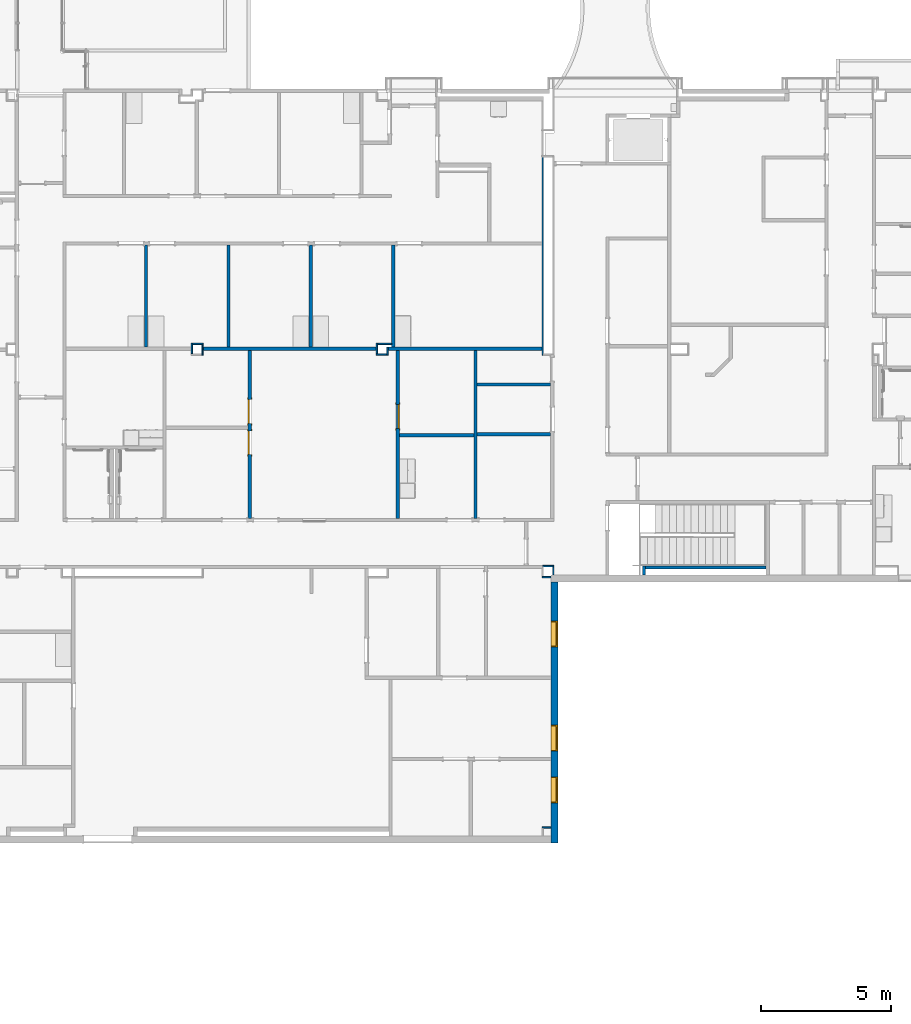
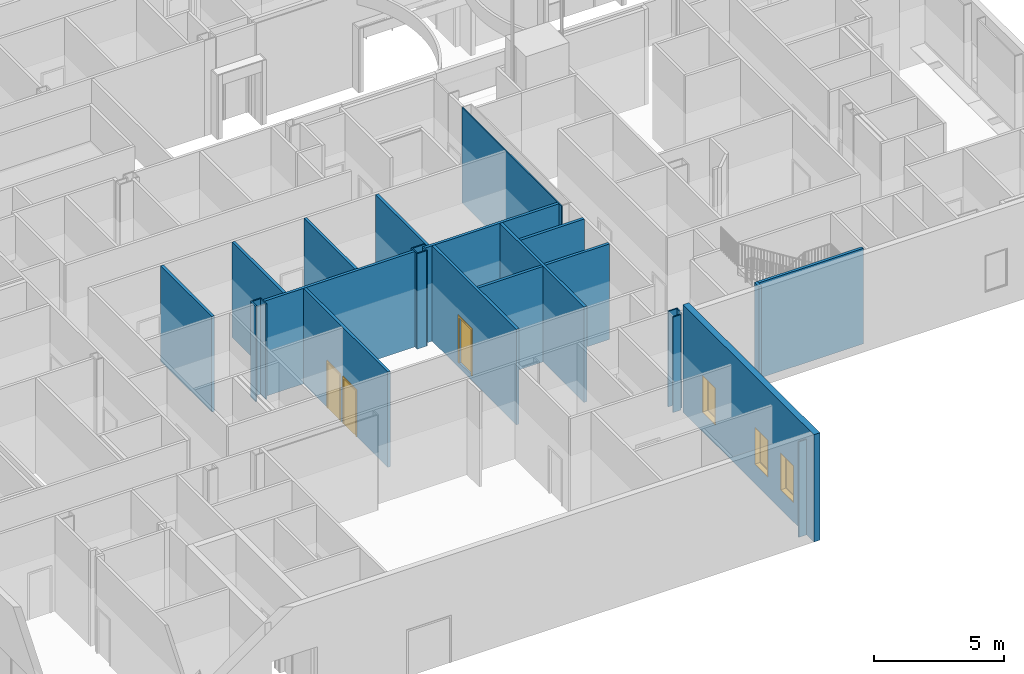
# One storey, part 22 of 82: 27 walls, 3 doors, 3 windows, 6 openings.
"""IFC2X3 building model written with IfcOpenShell, lengths in metres."""

from ifc_helpers import new_model, entity, si_unit, converted_unit, frame, frame_2d, origin, origin_2d_with_axis, place, context, project, spatial, polyline, rectangle, outline, extrude, source, transform, mapped, material, layer, layer_set, layer_usage, type_object, type_shapes, element, fill, save


model = new_model("IFC2X3")

# Units and contexts
model_context = context("Model", 3, precision=1e-09, world=origin())
plan_context = context("Plan", 3, precision=1e-09, world=origin())
ifc_project = project(units=[si_unit("LENGTHUNIT", "METRE"), si_unit("AREAUNIT", "SQUARE_METRE"), si_unit("VOLUMEUNIT", "CUBIC_METRE"), converted_unit("PLANEANGLEUNIT", "DEGREE", entity("IfcRatioMeasure", 0.01745329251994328), si_unit("PLANEANGLEUNIT", "RADIAN"), dimensions=[0, 0, 0, 0, 0, 0, 0]), si_unit("TIMEUNIT", "SECOND")], contexts=[model_context, plan_context])

# Site, building, storey
site_placement = place(None, origin())
site = spatial("IfcSite", under=ifc_project, at=site_placement, Name="Default", CompositionType="ELEMENT")
building_placement = place(site_placement, origin())
building = spatial("IfcBuilding", under=site, at=building_placement, CompositionType="ELEMENT")
storey_placement = place(building_placement, origin())
storey = spatial("IfcBuildingStorey", under=building, at=storey_placement, Name="First Floor", CompositionType="ELEMENT", Elevation=-3.531500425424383e-13)

# Wall, openings, windows
ifc_material_1 = material(Name="Insulation - Insulated Panel")
ifc_layer_1 = layer(ifc_material_1, 0.042)
ifc_material_2 = material(Name="Metal - Firring")
ifc_layer_2 = layer(ifc_material_2, 0.038)
ifc_material_3 = material(Name="Wood - Sheathing - plywood")
ifc_layer_3 = layer(ifc_material_3, 0.019)
ifc_material_4 = material(Name="Metal - Stud Layer")
ifc_layer_4 = layer(ifc_material_4, 0.152)
ifc_material_5 = material(Name="Plasterboard")
ifc_layer_5 = layer(ifc_material_5, 0.016)
ifc_layer_set_1 = layer_set([ifc_layer_1, ifc_layer_2, ifc_layer_3, ifc_layer_4, ifc_layer_5], Name="Basic Wall:Exterior - Insul Panel on Mtl. Stud")
ifc_layer_usage_1 = layer_usage(ifc_layer_set_1, "AXIS2", "NEGATIVE", 0.1335)
wall_1_placement = place(storey_placement, frame((-19.81350000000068, 9.659999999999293, 0.0), z_axis=(0.0, 0.0, 1.0), x_axis=(0.0, -1.0, 0.0)))
wall_1 = element("IfcWallStandardCase", 1, at=wall_1_placement, inside=storey, material=ifc_layer_usage_1, Name="Basic Wall:Exterior - Insul Panel on Mtl. Stud", ObjectType="Basic Wall:Exterior - Insul Panel on Mtl. Stud", context=model_context, shape_type="SweptSolid", body=[
    extrude(rectangle(XDim=10.04000000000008, YDim=0.2669999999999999, at=frame_2d((5.02000000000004, 0.0), x_axis=(-1.0, 0.0))), origin(), (0.0, 0.0, 1.0), 5.02700000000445),
])
opening_1_placement = place(wall_1_placement, frame((5.516000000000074, -0.1335000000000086, 0.9049999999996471)))
opening_1 = element("IfcOpeningElement", 2, at=opening_1_placement, cuts=wall_1, Name="M_Fixed:1735 x 1000mm:1735 x 1000mm:1", ObjectType="Opening", context=model_context, shape_type="SweptSolid", body=[
    extrude(rectangle(XDim=1.734999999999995, YDim=0.9999999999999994, at=frame_2d((0.8674999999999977, 0.5000000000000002), x_axis=(1.0, 0.0))), frame((0.0, 0.0, 0.0), z_axis=(0.0, 1.0, 0.0), x_axis=(0.0, 0.0, 1.0)), (0.0, 0.0, 1.0), 0.267),
])
opening_2_placement = place(wall_1_placement, frame((1.506000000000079, -0.1335000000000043, 0.9049999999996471)))
opening_2 = element("IfcOpeningElement", 3, at=opening_2_placement, cuts=wall_1, Name="M_Fixed:1735 x 1000mm:1735 x 1000mm:1", ObjectType="Opening", context=model_context, shape_type="SweptSolid", body=[
    extrude(rectangle(XDim=1.734999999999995, YDim=0.9999999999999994, at=frame_2d((0.8674999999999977, 0.5000000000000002), x_axis=(1.0, 0.0))), frame((0.0, 0.0, 0.0), z_axis=(0.0, 1.0, 0.0), x_axis=(0.0, 0.0, 1.0)), (0.0, 0.0, 1.0), 0.267),
])
opening_3_placement = place(wall_1_placement, frame((7.500000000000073, -0.133500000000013, 0.9049999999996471)))
opening_3 = element("IfcOpeningElement", 4, at=opening_3_placement, cuts=wall_1, Name="M_Fixed:1735 x 1000mm:1735 x 1000mm:1", ObjectType="Opening", context=model_context, shape_type="SweptSolid", body=[
    extrude(rectangle(XDim=1.734999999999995, YDim=0.9999999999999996, at=frame_2d((0.8674999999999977, 0.4999999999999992), x_axis=(1.0, 0.0))), frame((0.0, 0.0, 0.0), z_axis=(0.0, 1.0, 0.0), x_axis=(0.0, 0.0, 1.0)), (0.0, 0.0, 1.0), 0.267),
])
window_style = type_object("IfcWindowStyle", Name="1735 x 1000mm", ConstructionType="NOTDEFINED", OperationType="NOTDEFINED", ParameterTakesPrecedence=False, Sizeable=False)
shared_shape_1 = source(origin(), model_context, "Body", "SweptSolid", [
    extrude(rectangle(XDim=0.012, YDim=0.873999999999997, at=origin_2d_with_axis()), frame((0.5000000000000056, 0.2259999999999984, 0.06299999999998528), z_axis=(0.0, 0.0, 1.0), x_axis=(0.0, -1.0, 0.0)), (0.0, 0.0, 1.0), 1.609000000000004),
    extrude(outline(polyline([(-0.4809999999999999, -0.8485000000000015), (0.4809999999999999, -0.8485000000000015), (0.4809999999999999, 0.8485000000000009), (-0.4809999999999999, 0.8485000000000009), (-0.4809999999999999, -0.8485000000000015)]), holes=[polyline([(-0.4369999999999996, -0.8045000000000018), (-0.4369999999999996, 0.8045000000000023), (0.4369999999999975, 0.8045000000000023), (0.4369999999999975, -0.8045000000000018), (-0.4369999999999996, -0.8045000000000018)])]), frame((0.5000000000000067, 0.203999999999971, 0.8674999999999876), z_axis=(0.0, 1.0, 0.0), x_axis=(1.0, 0.0, 0.0)), (0.0, 0.0, 1.0), 0.04400000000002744),
    extrude(outline(polyline([(-0.4999999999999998, -0.8674999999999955), (0.4999999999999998, -0.8674999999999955), (0.4999999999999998, 0.8674999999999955), (-0.4999999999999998, 0.8674999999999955), (-0.4999999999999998, -0.8674999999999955)]), holes=[polyline([(-0.4810000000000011, -0.8484999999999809), (-0.4810000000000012, 0.8485000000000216), (0.4809999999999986, 0.8485000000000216), (0.4809999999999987, -0.8484999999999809), (-0.4810000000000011, -0.8484999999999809)])]), frame((0.500000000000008, 0.203999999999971, 0.8675000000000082), z_axis=(0.0, 1.0, 0.0), x_axis=(1.0, 0.0, 0.0)), (0.0, 0.0, 1.0), 0.06300000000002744),
    extrude(outline(polyline([(-0.5000000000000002, -0.867499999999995), (0.5000000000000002, -0.867499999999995), (0.5000000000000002, 0.867499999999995), (-0.5000000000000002, 0.867499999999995), (-0.5000000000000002, -0.867499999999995)]), holes=[polyline([(-0.4679999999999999, -0.8354999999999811), (-0.4679999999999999, 0.8355000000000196), (0.4680000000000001, 0.8355000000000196), (0.4680000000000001, -0.8354999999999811), (-0.4679999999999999, -0.8354999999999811)])]), frame((0.5000000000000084, 0.0, 0.8675000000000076), z_axis=(0.0, 1.0, 0.0), x_axis=(1.0, 0.0, 0.0)), (0.0, 0.0, 1.0), 0.2039999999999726),
])
type_shapes(window_style, [shared_shape_1])
window_1_placement = place(opening_2_placement, origin())
window_1 = element("IfcWindow", 5, at=window_1_placement, inside=storey, type_object=window_style, Name="M_Fixed:1735 x 1000mm:1735 x 1000mm", ObjectType="1735 x 1000mm", OverallHeight=1.734999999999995, OverallWidth=1.0, context=model_context, shape_type="MappedRepresentation", body=[
    mapped(shared_shape_1, transform((0.0, 0.0, 0.0), scale=1.0)),
])
fill(opening_2, window_1)
window_2_placement = place(opening_3_placement, origin())
window_2 = element("IfcWindow", 6, at=window_2_placement, inside=storey, type_object=window_style, Name="M_Fixed:1735 x 1000mm:1735 x 1000mm", ObjectType="1735 x 1000mm", OverallHeight=1.734999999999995, OverallWidth=0.9999999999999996, context=model_context, shape_type="MappedRepresentation", body=[
    mapped(shared_shape_1, transform((0.0, 0.0, 0.0), scale=1.0)),
])
fill(opening_3, window_2)
window_3_placement = place(opening_1_placement, origin())
window_3 = element("IfcWindow", 7, at=window_3_placement, inside=storey, type_object=window_style, Name="M_Fixed:1735 x 1000mm:1735 x 1000mm", ObjectType="1735 x 1000mm", OverallHeight=1.734999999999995, OverallWidth=0.9999999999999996, context=model_context, shape_type="MappedRepresentation", body=[
    mapped(shared_shape_1, transform((0.0, 0.0, 0.0), scale=1.0)),
])
fill(opening_1, window_3)

# Walls
ifc_layer_6 = layer(ifc_material_5, 0.016)
ifc_layer_7 = layer(ifc_material_4, 0.092)
ifc_layer_8 = layer(ifc_material_5, 0.016)
ifc_layer_set_2 = layer_set([ifc_layer_6, ifc_layer_7, ifc_layer_8], Name="Basic Wall:Interior - Partition (92mm Stud)")
ifc_layer_usage_2 = layer_usage(ifc_layer_set_2, "AXIS2", "NEGATIVE", 0.062)
wall_2_placement = place(storey_placement, frame((-26.67000000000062, 18.62199999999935, 0.0), z_axis=(0.0, 0.0, 1.0), x_axis=(-1.0, 0.0, 0.0)))
element("IfcWallStandardCase", 8, at=wall_2_placement, inside=storey, material=ifc_layer_usage_2, Name="Basic Wall:Interior - Partition (92mm Stud)", ObjectType="Basic Wall:Interior - Partition (92mm Stud)", context=model_context, shape_type="SweptSolid", body=[
    extrude(rectangle(XDim=6.650000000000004, YDim=0.1240000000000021, at=frame_2d((3.325000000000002, 0.0), x_axis=(-1.0, 0.0))), origin(), (0.0, 0.0, 1.0), 4.468000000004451),
])
wall_3_placement = place(storey_placement, frame((-22.84800000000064, 12.10399999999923, 0.0), z_axis=(0.0, 0.0, 1.0), x_axis=(0.0, 1.0, 0.0)))
element("IfcWallStandardCase", 9, at=wall_3_placement, inside=storey, material=ifc_layer_usage_2, Name="Basic Wall:Interior - Partition (92mm Stud)", ObjectType="Basic Wall:Interior - Partition (92mm Stud)", context=model_context, shape_type="SweptSolid", body=[
    extrude(rectangle(XDim=6.456000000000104, YDim=0.1239999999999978, at=frame_2d((3.228000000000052, 0.0), x_axis=(-1.0, 0.0))), origin(), (0.0, 0.0, 1.0), 4.46800000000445),
])
wall_4_placement = place(storey_placement, frame((-20.29000000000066, 18.62199999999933, 0.0), z_axis=(0.0, 0.0, 1.0), x_axis=(-1.0, 0.0, 0.0)))
element("IfcWallStandardCase", 10, at=wall_4_placement, inside=storey, material=ifc_layer_usage_2, Name="Basic Wall:Interior - Partition (92mm Stud)", ObjectType="Basic Wall:Interior - Partition (92mm Stud)", context=model_context, shape_type="SweptSolid", body=[
    extrude(rectangle(XDim=5.919999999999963, YDim=0.1240000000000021, at=frame_2d((2.959999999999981, 0.0), x_axis=(-1.0, 0.0))), origin(), (0.0, 0.0, 1.0), 4.468000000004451),
])

# Wall, openings, doors
wall_5_placement = place(storey_placement, frame((-31.53200000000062, 18.55999999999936, 0.0), z_axis=(0.0, 0.0, 1.0), x_axis=(0.0, -1.0, 0.0)))
wall_5 = element("IfcWallStandardCase", 11, at=wall_5_placement, inside=storey, material=ifc_layer_usage_2, Name="Basic Wall:Interior - Partition (92mm Stud)", ObjectType="Basic Wall:Interior - Partition (92mm Stud)", context=model_context, shape_type="SweptSolid", body=[
    extrude(rectangle(XDim=6.456000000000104, YDim=0.1239999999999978, at=frame_2d((3.228000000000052, 0.0), x_axis=(-1.0, 0.0))), origin(), (0.0, 0.0, 1.0), 4.46800000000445),
])
opening_4_placement = place(wall_5_placement, frame((4.009000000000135, 0.06199999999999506, 0.0)))
opening_4 = element("IfcOpeningElement", 12, at=opening_4_placement, cuts=wall_5, Name="M_Single-Flush:0915 x 2134mm:0915 x 2134mm:1", ObjectType="Opening", context=model_context, shape_type="SweptSolid", body=[
    extrude(rectangle(XDim=0.9149999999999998, YDim=2.134, at=frame_2d((1.067, 0.4575), x_axis=(0.0, 1.0))), frame((0.0, 0.0, 0.0), z_axis=(0.0, -1.0, 0.0), x_axis=(0.0, 0.0, 1.0)), (0.0, 0.0, 1.0), 0.124),
])
opening_5_placement = place(wall_5_placement, frame((2.81000000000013, 0.06199999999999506, 0.0)))
opening_5 = element("IfcOpeningElement", 13, at=opening_5_placement, cuts=wall_5, Name="M_Single-Flush:0915 x 2134mm:0915 x 2134mm:1", ObjectType="Opening", context=model_context, shape_type="SweptSolid", body=[
    extrude(rectangle(XDim=0.9149999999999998, YDim=2.134, at=frame_2d((1.067, 0.4574999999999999), x_axis=(0.0, -1.0))), frame((0.0, 0.0, 0.0), z_axis=(0.0, -1.0, 0.0), x_axis=(0.0, 0.0, 1.0)), (0.0, 0.0, 1.0), 0.124),
])
door_style_1 = type_object("IfcDoorStyle", Name="0915 x 2134mm", ConstructionType="NOTDEFINED", OperationType="SINGLE_SWING_RIGHT", ParameterTakesPrecedence=False, Sizeable=False)
shared_shape_2 = source(origin(), model_context, "Body", "SweptSolid", [
    extrude(outline(polyline([(-0.5335, -1.123999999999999), (0.5334999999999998, -1.123999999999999), (0.5334999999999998, 1.086), (0.4574999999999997, 1.086), (0.4574999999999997, -1.048000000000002), (-0.4574999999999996, -1.048000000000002), (-0.4574999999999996, 1.086), (-0.5335, 1.086), (-0.5335, -1.123999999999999)])), frame((0.4575000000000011, 0.1239999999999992, 1.086), z_axis=(0.0, 1.0, 0.0), x_axis=(1.0, 0.0, 0.0)), (0.0, 0.0, 1.0), 0.02499999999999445),
    extrude(outline(polyline([(-1.123999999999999, -0.5334999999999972), (1.085999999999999, -0.5334999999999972), (1.085999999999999, -0.4575000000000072), (-1.048, -0.4575000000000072), (-1.048, 0.4575000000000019), (1.085999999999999, 0.4575000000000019), (1.085999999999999, 0.5335000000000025), (-1.123999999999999, 0.5335000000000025), (-1.123999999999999, -0.5334999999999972)])), frame((0.4575000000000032, -0.02500000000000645, 1.085999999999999), z_axis=(0.0, 1.0, 0.0), x_axis=(0.0, 0.0, -1.0)), (0.0, 0.0, 1.0), 0.02500000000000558),
    extrude(rectangle(XDim=0.051, YDim=0.9149999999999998, at=origin_2d_with_axis()), frame((0.4575000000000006, 0.09849999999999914, 0.0), z_axis=(0.0, 0.0, 1.0), x_axis=(0.0, 1.0, 0.0)), (0.0, 0.0, 1.0), 2.133999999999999),
])
type_shapes(door_style_1, [shared_shape_2])
door_1_placement = place(opening_4_placement, frame((0.0, 0.0, 0.0), z_axis=(0.0, 0.0, 1.0), x_axis=(-1.0, 0.0, 0.0)))
door_1 = element("IfcDoor", 14, at=door_1_placement, inside=storey, type_object=door_style_1, Name="M_Single-Flush:0915 x 2134mm:0915 x 2134mm", ObjectType="0915 x 2134mm", OverallHeight=2.134, OverallWidth=0.9149999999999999, context=model_context, shape_type="MappedRepresentation", body=[
    mapped(shared_shape_2, transform((0.0, 0.0, 0.0), scale=1.0)),
])
fill(opening_4, door_1)
door_style_2 = type_object("IfcDoorStyle", Name="0915 x 2134mm", ConstructionType="NOTDEFINED", OperationType="SINGLE_SWING_LEFT", ParameterTakesPrecedence=False, Sizeable=False)
shared_shape_3 = source(origin(), model_context, "Body", "SweptSolid", [
    extrude(outline(polyline([(-0.5335, -1.123999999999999), (0.5334999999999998, -1.123999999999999), (0.5334999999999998, 1.086), (0.4574999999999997, 1.086), (0.4574999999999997, -1.048000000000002), (-0.4574999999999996, -1.048000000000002), (-0.4574999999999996, 1.086), (-0.5335, 1.086), (-0.5335, -1.123999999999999)])), frame((0.4575000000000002, 0.1489999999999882, 1.086), z_axis=(0.0, -1.0, 0.0), x_axis=(-1.0, 0.0, 0.0)), (0.0, 0.0, 1.0), 0.02499999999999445),
    extrude(outline(polyline([(-1.123999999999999, -0.5334999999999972), (1.085999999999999, -0.5334999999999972), (1.085999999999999, -0.4575000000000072), (-1.048, -0.4575000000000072), (-1.048, 0.4575000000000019), (1.085999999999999, 0.4575000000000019), (1.085999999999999, 0.5335000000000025), (-1.123999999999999, 0.5335000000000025), (-1.123999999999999, -0.5334999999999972)])), frame((0.4574999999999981, 0.0, 1.085999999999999), z_axis=(0.0, -1.0, 0.0), x_axis=(0.0, 0.0, -1.0)), (0.0, 0.0, 1.0), 0.02500000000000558),
    extrude(rectangle(XDim=0.9149999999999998, YDim=0.051, at=origin_2d_with_axis()), frame((0.4575000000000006, 0.09849999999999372, 0.0)), (0.0, 0.0, 1.0), 2.133999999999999),
])
type_shapes(door_style_2, [shared_shape_3])
door_2_placement = place(opening_5_placement, frame((0.0, 0.0, 0.0), z_axis=(0.0, 0.0, 1.0), x_axis=(-1.0, 0.0, 0.0)))
door_2 = element("IfcDoor", 15, at=door_2_placement, inside=storey, type_object=door_style_2, Name="M_Single-Flush:0915 x 2134mm:0915 x 2134mm", ObjectType="0915 x 2134mm", OverallHeight=2.134, OverallWidth=0.9149999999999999, context=model_context, shape_type="MappedRepresentation", body=[
    mapped(shared_shape_3, transform((0.0, 0.0, 0.0), scale=1.0)),
])
fill(opening_5, door_2)

# Wall
ifc_layer_9 = layer(ifc_material_4, 0.038)
ifc_layer_10 = layer(ifc_material_5, 0.016)
ifc_layer_set_3 = layer_set([ifc_layer_9, ifc_layer_10], Name="Basic Wall:Interior - Furring (38 mm Stud)")
ifc_layer_usage_3 = layer_usage(ifc_layer_set_3, "AXIS2", "POSITIVE", -0.027)
wall_6_placement = place(storey_placement, frame((-19.85700000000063, 10.2329999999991, 0.0), z_axis=(0.0, 0.0, 1.0), x_axis=(0.0, -1.0, 0.0)))
element("IfcWallStandardCase", 16, at=wall_6_placement, inside=storey, material=ifc_layer_usage_3, Name="Basic Wall:Interior - Furring (38 mm Stud)", ObjectType="Basic Wall:Interior - Furring (38 mm Stud)", context=model_context, shape_type="SweptSolid", body=[
    extrude(rectangle(XDim=0.3059999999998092, YDim=0.05399999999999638, at=frame_2d((0.1529999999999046, 0.0), x_axis=(-1.0, 0.0))), origin(), (0.0, 0.0, 1.0), 4.46800000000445),
])

# Wall, opening, door
wall_7_placement = place(storey_placement, frame((-25.83800000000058, 12.10399999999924, 0.0), z_axis=(0.0, 0.0, 1.0), x_axis=(0.0, 1.0, 0.0)))
wall_7 = element("IfcWallStandardCase", 17, at=wall_7_placement, inside=storey, material=ifc_layer_usage_2, Name="Basic Wall:Interior - Partition (92mm Stud)", ObjectType="Basic Wall:Interior - Partition (92mm Stud)", context=model_context, shape_type="SweptSolid", body=[
    extrude(rectangle(XDim=6.456000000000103, YDim=0.1239999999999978, at=frame_2d((3.228000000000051, 0.0), x_axis=(-1.0, 0.0))), origin(), (0.0, 0.0, 1.0), 4.468000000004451),
])
opening_6_placement = place(wall_7_placement, frame((4.371000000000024, 0.06199999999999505, 0.2499999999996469)))
opening_6 = element("IfcOpeningElement", 18, at=opening_6_placement, cuts=wall_7, Name="M_Single-Flush:0915 x 2134mm Rated:0915 x 2134mm Rated:1", ObjectType="Opening", context=model_context, shape_type="SweptSolid", body=[
    extrude(rectangle(XDim=0.9149999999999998, YDim=2.134, at=frame_2d((1.067, 0.4575), x_axis=(0.0, 1.0))), frame((0.0, 0.0, 0.0), z_axis=(0.0, -1.0, 0.0), x_axis=(0.0, 0.0, 1.0)), (0.0, 0.0, 1.0), 0.124),
])
door_style_3 = type_object("IfcDoorStyle", Name="0915 x 2134mm Rated", ConstructionType="NOTDEFINED", OperationType="SINGLE_SWING_RIGHT", ParameterTakesPrecedence=False, Sizeable=False)
shared_shape_4 = source(origin(), model_context, "Body", "SweptSolid", [
    extrude(outline(polyline([(-0.5335, -1.123999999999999), (0.5334999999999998, -1.123999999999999), (0.5334999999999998, 1.086), (0.4574999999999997, 1.086), (0.4574999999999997, -1.048000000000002), (-0.4574999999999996, -1.048000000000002), (-0.4574999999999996, 1.086), (-0.5335, 1.086), (-0.5335, -1.123999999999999)])), frame((0.4575000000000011, 0.1240000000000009, 1.086), z_axis=(0.0, 1.0, 0.0), x_axis=(1.0, 0.0, 0.0)), (0.0, 0.0, 1.0), 0.02499999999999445),
    extrude(outline(polyline([(-1.123999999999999, -0.5334999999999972), (1.085999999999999, -0.5334999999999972), (1.085999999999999, -0.4575000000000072), (-1.048, -0.4575000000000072), (-1.048, 0.4575000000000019), (1.085999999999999, 0.4575000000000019), (1.085999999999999, 0.5335000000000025), (-1.123999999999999, 0.5335000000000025), (-1.123999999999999, -0.5334999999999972)])), frame((0.4575000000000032, -0.02500000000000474, 1.085999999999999), z_axis=(0.0, 1.0, 0.0), x_axis=(0.0, 0.0, -1.0)), (0.0, 0.0, 1.0), 0.02500000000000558),
    extrude(rectangle(XDim=0.051, YDim=0.9149999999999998, at=origin_2d_with_axis()), frame((0.4575000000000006, 0.09850000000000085, 0.0), z_axis=(0.0, 0.0, 1.0), x_axis=(0.0, 1.0, 0.0)), (0.0, 0.0, 1.0), 2.133999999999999),
])
type_shapes(door_style_3, [shared_shape_4])
door_3_placement = place(opening_6_placement, frame((0.0, 0.0, 0.0), z_axis=(0.0, 0.0, 1.0), x_axis=(-1.0, 0.0, 0.0)))
door_3 = element("IfcDoor", 19, at=door_3_placement, inside=storey, type_object=door_style_3, Name="M_Single-Flush:0915 x 2134mm Rated:0915 x 2134mm Rated", ObjectType="0915 x 2134mm Rated", OverallHeight=2.134, OverallWidth=0.9149999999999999, context=model_context, shape_type="MappedRepresentation", body=[
    mapped(shared_shape_4, transform((0.0, 0.0, 0.0), scale=1.0)),
])
fill(opening_6, door_3)

# Walls
wall_8_placement = place(storey_placement, frame((-20.26300000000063, 10.2599999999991, 0.0)))
element("IfcWallStandardCase", 20, at=wall_8_placement, inside=storey, material=ifc_layer_usage_3, Name="Basic Wall:Interior - Furring (38 mm Stud)", ObjectType="Basic Wall:Interior - Furring (38 mm Stud)", context=model_context, shape_type="SweptSolid", body=[
    extrude(rectangle(XDim=0.4330000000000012, YDim=0.05400000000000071, at=frame_2d((0.2165000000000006, 0.0), x_axis=(-1.0, 0.0))), origin(), (0.0, 0.0, 1.0), 4.468000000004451),
])
wall_9_placement = place(storey_placement, frame((-19.94700000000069, 9.836999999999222, 0.0), z_axis=(0.0, 0.0, 1.0), x_axis=(-1.0, 0.0, 0.0)))
element("IfcWallStandardCase", 21, at=wall_9_placement, inside=storey, material=ifc_layer_usage_3, Name="Basic Wall:Interior - Furring (38 mm Stud)", ObjectType="Basic Wall:Interior - Furring (38 mm Stud)", context=model_context, shape_type="SweptSolid", body=[
    extrude(rectangle(XDim=0.342999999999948, YDim=0.05400000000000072, at=frame_2d((0.171499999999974, 0.0), x_axis=(-1.0, 0.0))), origin(), (0.0, 0.0, 1.0), 4.46800000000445),
])
ifc_layer_usage_4 = layer_usage(ifc_layer_set_3, "AXIS2", "NEGATIVE", 0.027)
wall_10_placement = place(storey_placement, frame((-20.26300000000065, 25.99199999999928, 0.0), z_axis=(0.0, 0.0, 1.0), x_axis=(0.0, -1.0, 0.0)))
element("IfcWallStandardCase", 22, at=wall_10_placement, inside=storey, material=ifc_layer_usage_4, Name="Basic Wall:Interior - Furring (38 mm Stud)", ObjectType="Basic Wall:Interior - Furring (38 mm Stud)", context=model_context, shape_type="SweptSolid", body=[
    extrude(rectangle(XDim=7.611999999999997, YDim=0.05399999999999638, at=frame_2d((3.805999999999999, 0.0), x_axis=(-1.0, 0.0))), origin(), (0.0, 0.0, 1.0), 4.46800000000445),
])
wall_11_placement = place(storey_placement, frame((-26.01200000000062, 22.60599999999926, 0.0), z_axis=(0.0, 0.0, 1.0), x_axis=(0.0, -1.0, 0.0)))
element("IfcWallStandardCase", 23, at=wall_11_placement, inside=storey, material=ifc_layer_usage_2, Name="Basic Wall:Interior - Partition (92mm Stud)", ObjectType="Basic Wall:Interior - Partition (92mm Stud)", context=model_context, shape_type="SweptSolid", body=[
    extrude(rectangle(XDim=3.921999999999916, YDim=0.1239999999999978, at=frame_2d((1.960999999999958, 0.0), x_axis=(-1.0, 0.0))), origin(), (0.0, 0.0, 1.0), 4.46800000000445),
])
wall_12_placement = place(storey_placement, frame((-33.34700000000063, 18.78599999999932, 0.0), z_axis=(0.0, 0.0, 1.0), x_axis=(0.0, -1.0, 0.0)))
element("IfcWallStandardCase", 24, at=wall_12_placement, inside=storey, material=ifc_layer_usage_3, Name="Basic Wall:Interior - Furring (38 mm Stud)", ObjectType="Basic Wall:Interior - Furring (38 mm Stud)", context=model_context, shape_type="SweptSolid", body=[
    extrude(rectangle(XDim=0.4059999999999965, YDim=0.05399999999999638, at=frame_2d((0.2029999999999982, 0.0), x_axis=(-1.0, 0.0))), origin(), (0.0, 0.0, 1.0), 4.46800000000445),
])
wall_13_placement = place(storey_placement, frame((-26.64300000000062, 18.43399999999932, 0.0), z_axis=(0.0, 0.0, 1.0), x_axis=(0.0, 1.0, 0.0)))
element("IfcWallStandardCase", 25, at=wall_13_placement, inside=storey, material=ifc_layer_usage_3, Name="Basic Wall:Interior - Furring (38 mm Stud)", ObjectType="Basic Wall:Interior - Furring (38 mm Stud)", context=model_context, shape_type="SweptSolid", body=[
    extrude(rectangle(XDim=0.4059999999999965, YDim=0.05399999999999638, at=frame_2d((0.2029999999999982, 0.0), x_axis=(-1.0, 0.0))), origin(), (0.0, 0.0, 1.0), 4.468000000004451),
])
wall_14_placement = place(storey_placement, frame((-33.75300000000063, 18.43399999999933, 0.0), z_axis=(0.0, 0.0, 1.0), x_axis=(0.0, 1.0, 0.0)))
element("IfcWallStandardCase", 26, at=wall_14_placement, inside=storey, material=ifc_layer_usage_3, Name="Basic Wall:Interior - Furring (38 mm Stud)", ObjectType="Basic Wall:Interior - Furring (38 mm Stud)", context=model_context, shape_type="SweptSolid", body=[
    extrude(rectangle(XDim=0.4059999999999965, YDim=0.05399999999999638, at=frame_2d((0.2029999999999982, 0.0), x_axis=(-1.0, 0.0))), origin(), (0.0, 0.0, 1.0), 4.46800000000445),
])
wall_15_placement = place(storey_placement, frame((-26.61600000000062, 18.81299999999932, 0.0)))
element("IfcWallStandardCase", 27, at=wall_15_placement, inside=storey, material=ifc_layer_usage_3, Name="Basic Wall:Interior - Furring (38 mm Stud)", ObjectType="Basic Wall:Interior - Furring (38 mm Stud)", context=model_context, shape_type="SweptSolid", body=[
    extrude(rectangle(XDim=0.5419999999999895, YDim=0.05400000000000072, at=frame_2d((0.2709999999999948, 0.0), x_axis=(-1.0, 0.0))), origin(), (0.0, 0.0, 1.0), 4.46800000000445),
])
wall_16_placement = place(storey_placement, frame((-29.18200000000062, 22.60599999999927, 0.0), z_axis=(0.0, 0.0, 1.0), x_axis=(0.0, -1.0, 0.0)))
element("IfcWallStandardCase", 28, at=wall_16_placement, inside=storey, material=ifc_layer_usage_2, Name="Basic Wall:Interior - Partition (92mm Stud)", ObjectType="Basic Wall:Interior - Partition (92mm Stud)", context=model_context, shape_type="SweptSolid", body=[
    extrude(rectangle(XDim=3.921999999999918, YDim=0.1239999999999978, at=frame_2d((1.960999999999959, 0.0), x_axis=(-1.0, 0.0))), origin(), (0.0, 0.0, 1.0), 4.46800000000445),
])
wall_17_placement = place(storey_placement, frame((-35.52200000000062, 22.60599999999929, 0.0), z_axis=(0.0, 0.0, 1.0), x_axis=(0.0, -1.0, 0.0)))
element("IfcWallStandardCase", 29, at=wall_17_placement, inside=storey, material=ifc_layer_usage_2, Name="Basic Wall:Interior - Partition (92mm Stud)", ObjectType="Basic Wall:Interior - Partition (92mm Stud)", context=model_context, shape_type="SweptSolid", body=[
    extrude(rectangle(XDim=3.921999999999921, YDim=0.1239999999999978, at=frame_2d((1.96099999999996, 0.0), x_axis=(-1.0, 0.0))), origin(), (0.0, 0.0, 1.0), 4.46800000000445),
])
wall_18_placement = place(storey_placement, frame((-19.95400000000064, 15.33199999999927, 0.0), z_axis=(0.0, 0.0, 1.0), x_axis=(-1.0, 0.0, 0.0)))
element("IfcWallStandardCase", 30, at=wall_18_placement, inside=storey, material=ifc_layer_usage_2, Name="Basic Wall:Interior - Partition (92mm Stud)", ObjectType="Basic Wall:Interior - Partition (92mm Stud)", context=model_context, shape_type="SweptSolid", body=[
    extrude(rectangle(XDim=2.831999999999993, YDim=0.1240000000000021, at=frame_2d((1.415999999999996, 0.0), x_axis=(-1.0, 0.0))), origin(), (0.0, 0.0, 1.0), 4.46800000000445),
])
wall_19_placement = place(storey_placement, frame((-32.35200000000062, 22.60599999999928, 0.0), z_axis=(0.0, 0.0, 1.0), x_axis=(0.0, -1.0, 0.0)))
element("IfcWallStandardCase", 31, at=wall_19_placement, inside=storey, material=ifc_layer_usage_2, Name="Basic Wall:Interior - Partition (92mm Stud)", ObjectType="Basic Wall:Interior - Partition (92mm Stud)", context=model_context, shape_type="SweptSolid", body=[
    extrude(rectangle(XDim=3.921999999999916, YDim=0.1239999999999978, at=frame_2d((1.960999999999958, 0.0), x_axis=(-1.0, 0.0))), origin(), (0.0, 0.0, 1.0), 4.46800000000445),
])
wall_20_placement = place(storey_placement, frame((-25.77600000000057, 15.29799999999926, 0.0)))
element("IfcWallStandardCase", 32, at=wall_20_placement, inside=storey, material=ifc_layer_usage_2, Name="Basic Wall:Interior - Partition (92mm Stud)", ObjectType="Basic Wall:Interior - Partition (92mm Stud)", context=model_context, shape_type="SweptSolid", body=[
    extrude(rectangle(XDim=2.865999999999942, YDim=0.1240000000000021, at=frame_2d((1.432999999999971, 0.0), x_axis=(-1.0, 0.0))), origin(), (0.0, 0.0, 1.0), 4.46800000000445),
])
wall_21_placement = place(storey_placement, frame((-19.95400000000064, 17.25199999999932, 0.0), z_axis=(0.0, 0.0, 1.0), x_axis=(-1.0, 0.0, 0.0)))
element("IfcWallStandardCase", 33, at=wall_21_placement, inside=storey, material=ifc_layer_usage_2, Name="Basic Wall:Interior - Partition (92mm Stud)", ObjectType="Basic Wall:Interior - Partition (92mm Stud)", context=model_context, shape_type="SweptSolid", body=[
    extrude(rectangle(XDim=2.831999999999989, YDim=0.1240000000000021, at=frame_2d((1.415999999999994, 0.0), x_axis=(-1.0, 0.0))), origin(), (0.0, 0.0, 1.0), 4.46800000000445),
])
wall_22_placement = place(storey_placement, frame((-26.23700000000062, 18.68399999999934, 0.0), z_axis=(0.0, 0.0, 1.0), x_axis=(0.0, -1.0, 0.0)))
element("IfcWallStandardCase", 34, at=wall_22_placement, inside=storey, material=ifc_layer_usage_3, Name="Basic Wall:Interior - Furring (38 mm Stud)", ObjectType="Basic Wall:Interior - Furring (38 mm Stud)", context=model_context, shape_type="SweptSolid", body=[
    extrude(rectangle(XDim=0.3040000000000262, YDim=0.05399999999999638, at=frame_2d((0.1520000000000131, 0.0), x_axis=(-1.0, 0.0))), origin(), (0.0, 0.0, 1.0), 4.468000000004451),
])
wall_23_placement = place(storey_placement, frame((-33.72600000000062, 18.81299999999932, 0.0)))
element("IfcWallStandardCase", 35, at=wall_23_placement, inside=storey, material=ifc_layer_usage_3, Name="Basic Wall:Interior - Furring (38 mm Stud)", ObjectType="Basic Wall:Interior - Furring (38 mm Stud)", context=model_context, shape_type="SweptSolid", body=[
    extrude(rectangle(XDim=0.4059999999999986, YDim=0.05400000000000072, at=frame_2d((0.2029999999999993, 0.0), x_axis=(-1.0, 0.0))), origin(), (0.0, 0.0, 1.0), 4.468000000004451),
])
wall_24_placement = place(storey_placement, frame((-16.36800000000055, 9.92699999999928, 0.0), z_axis=(0.0, 0.0, 1.0), x_axis=(0.0, 1.0, 0.0)))
element("IfcWallStandardCase", 36, at=wall_24_placement, inside=storey, material=ifc_layer_usage_2, Name="Basic Wall:Interior - Partition (92mm Stud)", ObjectType="Basic Wall:Interior - Partition (92mm Stud)", context=model_context, shape_type="SweptSolid", body=[
    extrude(rectangle(XDim=0.3429998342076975, YDim=0.1240000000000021, at=frame_2d((0.1714999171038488, 0.0), x_axis=(-1.0, 0.0))), origin(), (0.0, 0.0, 1.0), 4.46800000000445),
])
wall_25_placement = place(storey_placement, frame((-16.30600000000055, 10.20799983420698, 0.0)))
element("IfcWallStandardCase", 37, at=wall_25_placement, inside=storey, material=ifc_layer_usage_2, Name="Basic Wall:Interior - Partition (92mm Stud)", ObjectType="Basic Wall:Interior - Partition (92mm Stud)", context=model_context, shape_type="SweptSolid", body=[
    extrude(rectangle(XDim=4.632000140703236, YDim=0.1240000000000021, at=frame_2d((2.316000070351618, 0.0), x_axis=(-1.0, 0.0))), origin(), (0.0, 0.0, 1.0), 4.46800000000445),
])
wall_26_placement = place(storey_placement, frame((-26.26400000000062, 18.40699999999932, 0.0), z_axis=(0.0, 0.0, 1.0), x_axis=(-1.0, 0.0, 0.0)))
element("IfcWallStandardCase", 38, at=wall_26_placement, inside=storey, material=ifc_layer_usage_3, Name="Basic Wall:Interior - Furring (38 mm Stud)", ObjectType="Basic Wall:Interior - Furring (38 mm Stud)", context=model_context, shape_type="SweptSolid", body=[
    extrude(rectangle(XDim=0.4059999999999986, YDim=0.05400000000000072, at=frame_2d((0.2029999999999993, 0.0), x_axis=(-1.0, 0.0))), origin(), (0.0, 0.0, 1.0), 4.468000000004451),
])
wall_27_placement = place(storey_placement, frame((-19.9470000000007, 0.2029999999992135, 0.0), z_axis=(0.0, 0.0, 1.0), x_axis=(-1.0, 0.0, 0.0)))
element("IfcWallStandardCase", 39, at=wall_27_placement, inside=storey, material=ifc_layer_usage_4, Name="Basic Wall:Interior - Furring (38 mm Stud)", ObjectType="Basic Wall:Interior - Furring (38 mm Stud)", context=model_context, shape_type="SweptSolid", body=[
    extrude(rectangle(XDim=0.3429999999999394, YDim=0.05400000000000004, at=frame_2d((0.1714999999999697, 0.0), x_axis=(-1.0, 0.0))), origin(), (0.0, 0.0, 1.0), 4.46800000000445),
])

save(model, "model.ifc")
